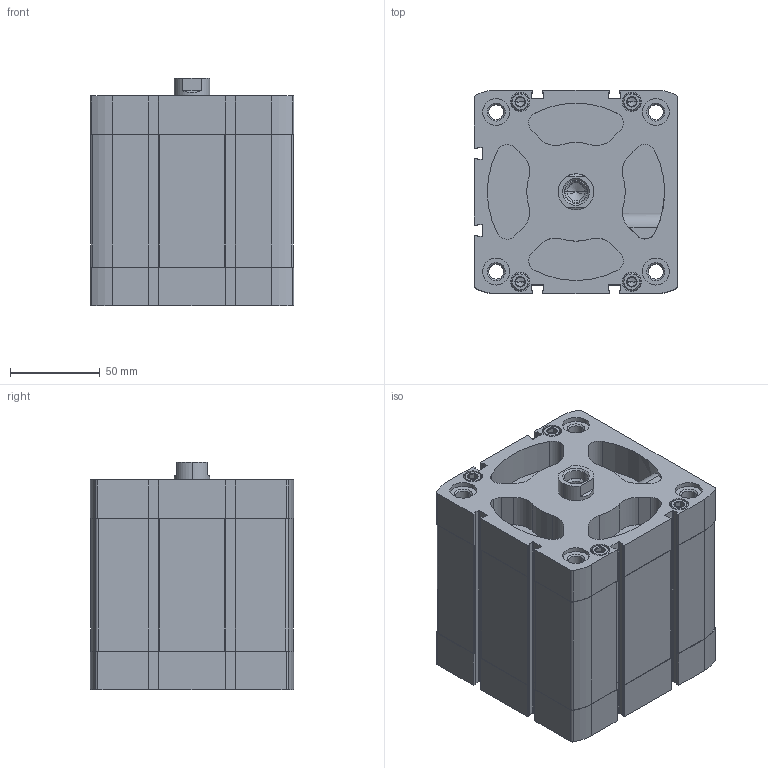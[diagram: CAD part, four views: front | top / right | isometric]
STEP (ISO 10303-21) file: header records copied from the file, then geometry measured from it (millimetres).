
FILE_DESCRIPTION (( 'STEP AP203' ), '1' );
FILE_NAME ('CCN100-50F.STEP', '2020-06-05T18:14:02', ( '' ), ( '' ), 'SwSTEP 2.0', 'SolidWorks 2019', '' );
FILE_SCHEMA (( 'CONFIG_CONTROL_DESIGN' ));
Length unit declared in the file: millimetre
Products named in the file (1): CCN100-50F
Bounding box: 113.5 x 113.5 x 126.8 mm (x, y, z)
Volume: 918422 mm3; surface area: 191273.9 mm2
Topology: 2 solids, 2 shells, 628 faces, 1631 edges, 1043 vertices
Faces by surface type: plane 284, cylinder 270, cone 74
Entity records: 20342 total; most frequent: CARTESIAN_POINT 4507, DIRECTION 3451, ORIENTED_EDGE 3226, EDGE_CURVE 1613, AXIS2_PLACEMENT_3D 1281, VERTEX_POINT 1043, VECTOR 889, LINE 889
